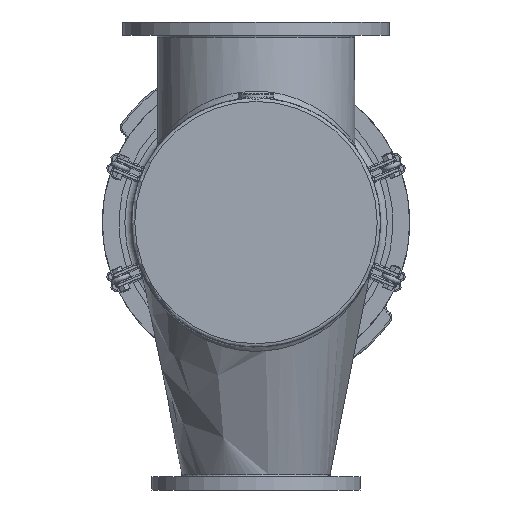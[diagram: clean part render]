
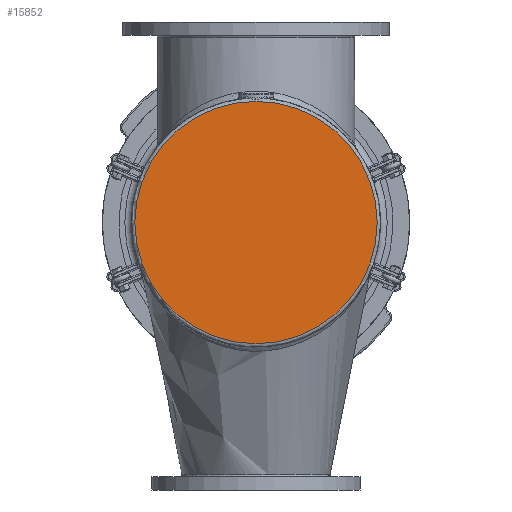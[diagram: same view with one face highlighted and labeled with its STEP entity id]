
A CAD part, front view. The second image highlights one B-rep face of the part: STEP entity #15852.
In plain terms, the highlighted planar face has unit normal (0, -1, 0).
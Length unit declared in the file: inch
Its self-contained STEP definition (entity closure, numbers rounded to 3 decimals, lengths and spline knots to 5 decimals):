
#2297=PLANE('',#16913);
#3616=FACE_OUTER_BOUND('',#4632,.T.);
#4632=EDGE_LOOP('',(#10612));
#5871=CIRCLE('',#16905,9.0625);
#6857=VERTEX_POINT('',#24227);
#8304=EDGE_CURVE('',#6857,#6857,#5871,.T.);
#10612=ORIENTED_EDGE('',*,*,#8304,.F.);
#15852=ADVANCED_FACE('',(#3616),#2297,.F.);
#16905=AXIS2_PLACEMENT_3D('',#24228,#18979,#18980);
#16913=AXIS2_PLACEMENT_3D('',#24239,#18995,#18996);
#18979=DIRECTION('center_axis',(0.,1.,0.));
#18980=DIRECTION('ref_axis',(1.,0.,0.));
#18995=DIRECTION('center_axis',(0.,1.,0.));
#18996=DIRECTION('ref_axis',(0.,0.,1.));
#24227=CARTESIAN_POINT('',(-9.0625,0.,0.));
#24228=CARTESIAN_POINT('Origin',(0.,0.,0.));
#24239=CARTESIAN_POINT('Origin',(0.,0.,0.));
